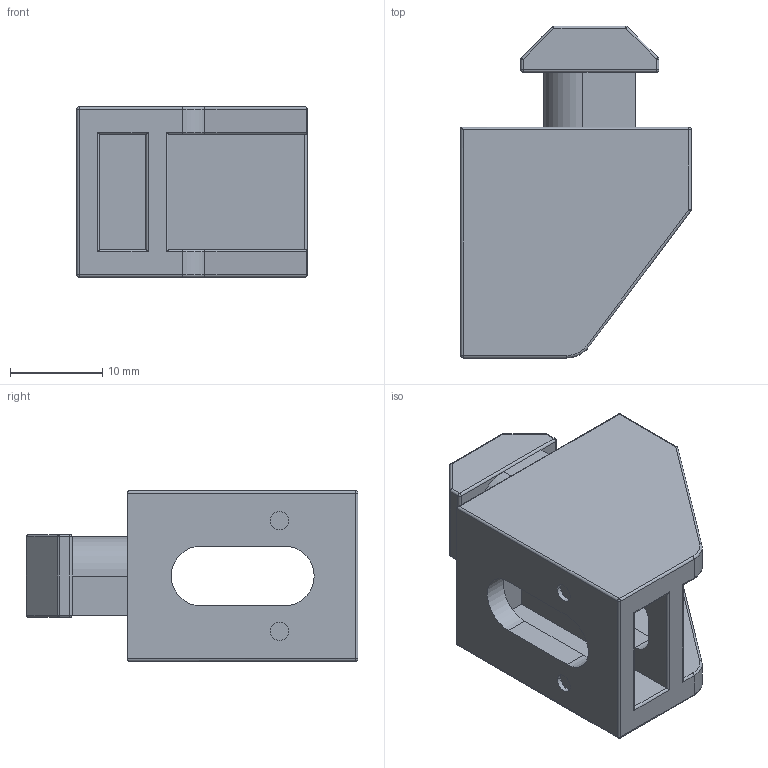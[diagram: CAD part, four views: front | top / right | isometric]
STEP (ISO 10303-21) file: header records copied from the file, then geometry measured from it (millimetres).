
FILE_DESCRIPTION (( 'STEP AP203' ), '1' );
FILE_NAME ('panel mounting 08 slot.STEP', '2012-05-29T20:28:34', ( '' ), ( '' ), 'SwSTEP 2.0', 'SolidWorks 2010', '' );
FILE_SCHEMA (( 'CONFIG_CONTROL_DESIGN' ));
Length unit declared in the file: millimetre
Products named in the file (1): panel mounting 08 slot
Bounding box: 25 x 36 x 18.5 mm (x, y, z)
Volume: 5865.7 mm3; surface area: 4381.3 mm2
Topology: 1 solids, 1 shells, 121 faces, 275 edges, 148 vertices
Faces by surface type: cylinder 59, plane 38, sphere 20, torus 4
Entity records: 3308 total; most frequent: DIRECTION 599, CARTESIAN_POINT 563, ORIENTED_EDGE 526, EDGE_CURVE 263, AXIS2_PLACEMENT_3D 224, VECTOR 151, LINE 151, VERTEX_POINT 148
